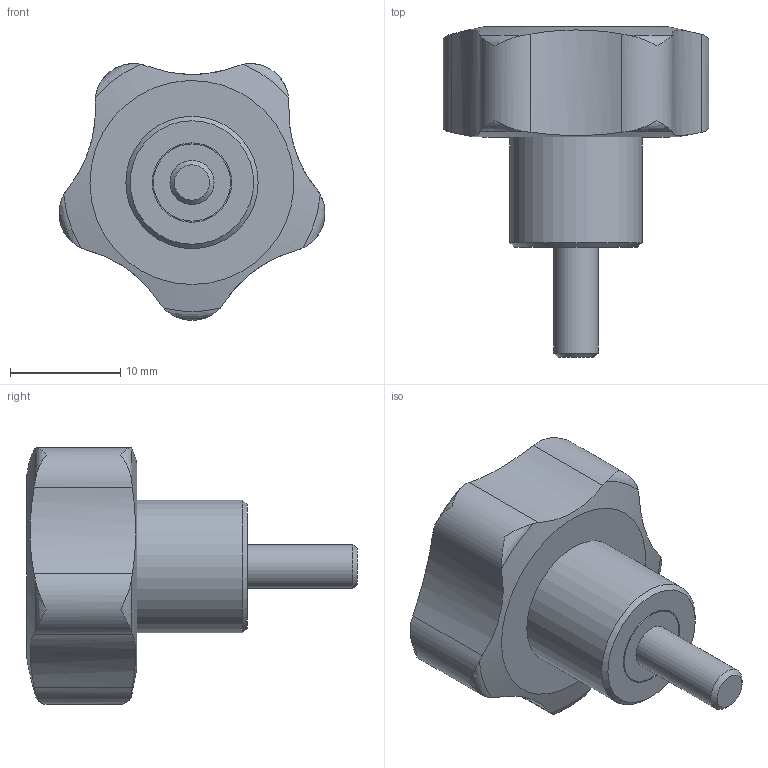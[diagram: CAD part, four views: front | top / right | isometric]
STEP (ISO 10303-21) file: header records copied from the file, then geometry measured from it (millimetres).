
FILE_DESCRIPTION( ( 'STEP AP203' ), '1' );
FILE_NAME( 'C:/Temp/Ganter_Step_05_03_2020/data/2_2/gn_5337_4/gn_5337_4_s/Star knob GN 5337.4-25-M4-10.stp', '2020-03-05T12:09:38', ( 'License CC BY-ND 4.0' ), ( 'CADENAS' ), ' ', 'PARTsolutions', ' ' );
FILE_SCHEMA( ( 'CONFIG_CONTROL_DESIGN' ) );
Length unit declared in the file: millimetre
Products named in the file (1): _Star knob GN 5337.4-25-M4-10
Bounding box: 24.11 x 30 x 23.28 mm (x, y, z)
Volume: 4940.9 mm3; surface area: 1951 mm2
Topology: 1 solids, 1 shells, 34 faces, 95 edges, 66 vertices
Faces by surface type: cylinder 14, torus 10, plane 5, cone 3, bspline 1, sphere 1
Full cylindrical faces by diameter (mm): 4 x1, 7 x1, 7.2 x1, 12 x1
Entity records: 1417 total; most frequent: CARTESIAN_POINT 629, ORIENTED_EDGE 164, DIRECTION 122, EDGE_CURVE 82, VERTEX_POINT 63, AXIS2_PLACEMENT_3D 56, B_SPLINE_CURVE_WITH_KNOTS 50, EDGE_LOOP 46
